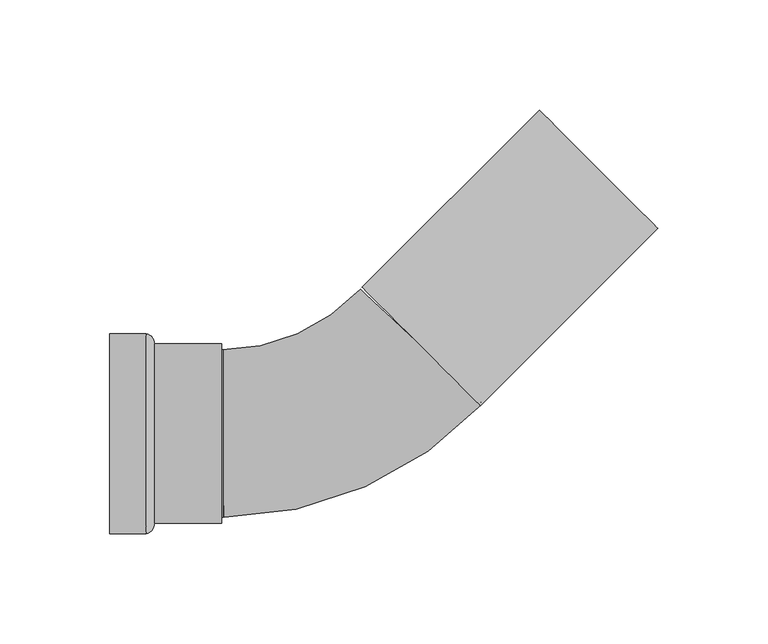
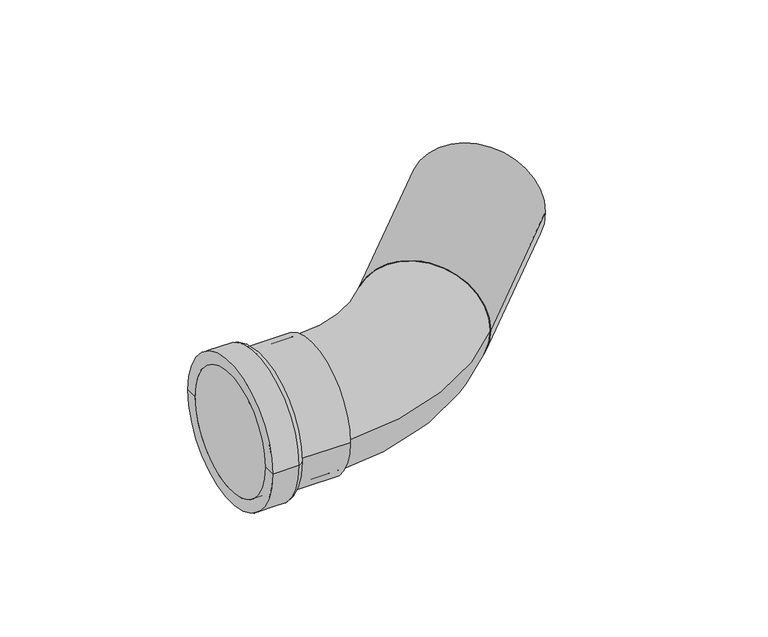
"""IFC4 building model written with IfcOpenShell, lengths in millimetres: pipe fitting geometry, VALTEC_VTi.958.I_Угольник 45° (раструб–труба) нержавеющая сталь. : VTi.958.I."""

from ifc_helpers import new_model, si_unit, point, frame, origin, origin_2d, place, context, project, spatial, polyline, circle_curve, ellipse_curve, trimmed, segment, composite_curve, outline, extrude, source, transform, mapped, element, save
from ifc_brep_helpers import plane_surface, cylinder_surface, revolved_surface, advanced_brep


def pipe_fitting_2f5093e1(model_context):
    return source(origin(), model_context, "Body", "SolidModel", [
        advanced_brep(
        [(-102.0, -38.05, 0.0), (-102.0, 38.05, 0.0), (-102.0, 45.5, 0.0), (-102.0, -45.5, 0.0), (-51.19, -38.05, 0.0), (-51.19, 38.05, 0.0), (-51.19, -40.75, 0.0), (-51.19, 40.75, 0.0), (-81.75, -40.75, 0.0), (-81.75, 40.75, 0.0), (-85.6, -45.5, 0.0), (-85.6, 45.5, 0.0)],
        [
            (0, 1, circle_curve(frame((-102.0, 0.0, 0.0), z_axis=(1.0, 0.0, 0.0), x_axis=(0.0, 1.0, 0.0)), 38.05)),
            (1, 2),
            (2, 3, circle_curve(frame((-102.0, 0.0, 0.0), z_axis=(-1.0, 0.0, 0.0), x_axis=(0.0, 1.0, 0.0)), 45.5)),
            (3, 0),
            (1, 0, circle_curve(frame((-102.0, 0.0, 0.0), z_axis=(1.0, 0.0, 0.0), x_axis=(0.0, 1.0, 0.0)), 38.05)),
            (3, 2, circle_curve(frame((-102.0, 0.0, 0.0), z_axis=(-1.0, 0.0, 0.0), x_axis=(0.0, 1.0, 0.0)), 45.5)),
            (4, 5, circle_curve(frame((-51.19, 0.0, 0.0), z_axis=(1.0, 0.0, 0.0), x_axis=(0.0, 1.0, 0.0)), 38.05)),
            (5, 1),
            (0, 4),
            (5, 4, circle_curve(frame((-51.19, 0.0, 0.0), z_axis=(1.0, 0.0, 0.0), x_axis=(0.0, 1.0, 0.0)), 38.05)),
            (6, 7, circle_curve(frame((-51.19, 0.0, 0.0), z_axis=(1.0, 0.0, 0.0), x_axis=(0.0, 1.0, 0.0)), 40.75)),
            (7, 5),
            (4, 6),
            (7, 6, circle_curve(frame((-51.19, 0.0, 0.0), z_axis=(1.0, 0.0, 0.0), x_axis=(0.0, 1.0, 0.0)), 40.75)),
            (8, 9, circle_curve(frame((-81.75, 0.0, 0.0), z_axis=(1.0, 0.0, 0.0), x_axis=(0.0, 1.0, 0.0)), 40.75)),
            (9, 7),
            (6, 8),
            (9, 8, circle_curve(frame((-81.75, 0.0, 0.0), z_axis=(1.0, 0.0, 0.0), x_axis=(0.0, 1.0, 0.0)), 40.75)),
            (10, 11, circle_curve(frame((-85.6, 0.0, 0.0), z_axis=(1.0, 0.0, 0.0), x_axis=(0.0, 1.0, 0.0)), 45.5)),
            (11, 9, circle_curve(frame((-86.4665873, 40.862345, 0.0), z_axis=(0.0, 0.0, -1.0), x_axis=(1.0, 0.0, 0.0)), 4.7179251)),
            (8, 10, circle_curve(frame((-86.4665873, -40.862345, 0.0), z_axis=(0.0, 0.0, -1.0), x_axis=(1.0, 0.0, 0.0)), 4.7179251)),
            (11, 10, circle_curve(frame((-85.6, 0.0, 0.0), z_axis=(1.0, 0.0, 0.0), x_axis=(0.0, 1.0, 0.0)), 45.5)),
            (2, 11),
            (10, 3),
        ],
        [
            plane_surface(frame((-102.0, 0.0, 0.0), z_axis=(-1.0, 0.0, 0.0), x_axis=(0.0, 1.0, 0.0))),
            revolved_surface(polyline([(-102.0, 38.05, 0.0), (-51.19, 38.05, 0.0)]), (-72.1506392, 0.0, 0.0), (-1.0, 0.0, 0.0)),
            plane_surface(frame((-51.19, 0.0, 0.0), z_axis=(1.0, 0.0, 0.0), x_axis=(0.0, 1.0, 0.0))),
            cylinder_surface(frame((-72.1506392, 0.0, 0.0), z_axis=(-1.0, 0.0, 0.0), x_axis=(0.0, 1.0, 0.0)), 40.75),
            revolved_surface(trimmed(ellipse_curve(frame((-86.4665873, 40.862345, 0.0), z_axis=(0.0, 0.0, 1.0), x_axis=(1.0, 0.0, 0.0)), 4.7179251, 4.7179251), [point((-81.75, 40.75, 0.0))], [point((-85.6, 45.5, 0.0))], True, "CARTESIAN"), (-72.1506392, 0.0, 0.0), (-1.0, 0.0, 0.0)),
            cylinder_surface(frame((-72.1506392, 0.0, 0.0), z_axis=(-1.0, 0.0, 0.0), x_axis=(0.0, 1.0, 0.0)), 45.5),
        ],
        [
            (0, [[1, 2, 3, 4]]),
            (0, [[5, -4, 6, -2]]),
            (1, [[7, 8, -1, 9]]),
            (1, [[10, -9, -5, -8]]),
            (2, [[11, 12, -7, 13]]),
            (2, [[14, -13, -10, -12]]),
            (3, [[15, 16, -11, 17]]),
            (3, [[18, -17, -14, -16]]),
            (4, [[19, 20, -15, 21]]),
            (4, [[22, -21, -18, -20]]),
            (5, [[-3, 23, -19, 24]]),
            (5, [[-6, -24, -22, -23]]),
        ],
    ),
        extrude(outline(composite_curve([segment(trimmed(circle_curve(origin_2d(), 38.05), [point((-38.05, 0.0))], [point((38.05, 0.0))], False, "CARTESIAN"), True, "CONTINUOUS"), segment(trimmed(circle_curve(origin_2d(), 38.05), [point((38.05, 0.0))], [point((-38.05, 0.0))], False, "CARTESIAN"), True, "CONTINUOUS")], self_intersect=False)), frame((-102.0, 0.0, 0.0), z_axis=(1.0, 0.0, 0.0), x_axis=(0.0, 1.0, 0.0)), (0.0, 0.0, 1.0), 51.51),
        extrude(outline(composite_curve([segment(trimmed(circle_curve(origin_2d(), 38.05), [point((0.0, -38.05))], [point((0.0, 38.05))], False, "CARTESIAN"), True, "CONTINUOUS"), segment(trimmed(circle_curve(origin_2d(), 38.05), [point((0.0, 38.05))], [point((0.0, -38.05))], False, "CARTESIAN"), True, "CONTINUOUS")], self_intersect=False)), frame((39.6686904, 39.6686904, 0.0), z_axis=(0.7071067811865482, 0.707106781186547, 0.0), x_axis=(0.0, 0.0, 1.0)), (0.0, 0.0, 1.0), 113.9),
        advanced_brep(
        [(-50.1082545, -38.048085, 0.0), (-50.8717455, 38.048085, 0.0), (67.4617717, 13.6812486, 0.0), (11.8756091, 65.6561323, 0.0)],
        [
            (0, 1, circle_curve(frame((-50.49, 0.0, 0.0), z_axis=(-0.9999496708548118, -0.010032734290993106, 0.0), x_axis=(-0.010032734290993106, 0.9999496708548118, 0.0)), 38.05)),
            (1, 0, circle_curve(frame((-50.49, 0.0, 0.0), z_axis=(-0.9999496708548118, -0.010032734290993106, 0.0), x_axis=(-0.010032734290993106, 0.9999496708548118, 0.0)), 38.05)),
            (2, 3, circle_curve(frame((39.6686904, 39.6686904, 0.0), z_axis=(0.6829813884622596, 0.7304357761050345, 0.0), x_axis=(-0.7304357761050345, 0.6829813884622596, 0.0)), 38.05)),
            (3, 2, circle_curve(frame((39.6686904, 39.6686904, 0.0), z_axis=(0.6829813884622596, 0.7304357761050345, 0.0), x_axis=(-0.7304357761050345, 0.6829813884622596, 0.0)), 38.05)),
            (3, 1, circle_curve(frame((-51.7456002, 125.144048, 0.0), z_axis=(0.0, 0.0, -1.0), x_axis=(0.010032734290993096, -0.9999496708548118, 0.0)), 87.1003467)),
            (0, 2, circle_curve(frame((-51.7456002, 125.144048, 0.0), z_axis=(0.0, 0.0, 1.0), x_axis=(0.010032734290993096, -0.9999496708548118, 0.0)), 163.2003467)),
        ],
        [
            plane_surface(frame((-50.49, 0.0, 0.0), z_axis=(-0.9999496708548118, -0.010032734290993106, 0.0), x_axis=(0.0, 0.0, 1.0))),
            plane_surface(frame((39.6686904, 39.6686904, 0.0), z_axis=(0.6829813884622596, 0.7304357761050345, 0.0), x_axis=(0.0, 0.0, 1.0))),
            revolved_surface(trimmed(ellipse_curve(frame((-50.49, 0.0, 0.0), z_axis=(-0.9999496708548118, -0.010032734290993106, 0.0), x_axis=(-0.010032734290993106, 0.9999496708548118, 0.0)), 38.05, 38.05), [point((-50.1082545, -38.048085, 0.0))], [point((-50.8717455, 38.048085, 0.0))], True, "CARTESIAN"), (-51.7456002, 125.144048, 0.0), (0.0, 0.0, 1.0)),
            revolved_surface(trimmed(ellipse_curve(frame((-50.49, 0.0, 0.0), z_axis=(-0.9999496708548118, -0.010032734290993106, 0.0), x_axis=(-0.010032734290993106, 0.9999496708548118, 0.0)), 38.05, 38.05), [point((-50.8717455, 38.048085, 0.0))], [point((-50.1082545, -38.048085, 0.0))], True, "CARTESIAN"), (-51.7456002, 125.144048, 0.0), (0.0, 0.0, 1.0)),
        ],
        [
            (0, [[1, 2]]),
            (1, [[3, 4]]),
            (2, [[5, -1, 6, -4]]),
            (3, [[-6, -2, -5, -3]]),
        ],
    ),
        extrude(outline(composite_curve([segment(trimmed(circle_curve(origin_2d(), 38.05), [point((-38.05, 0.0))], [point((38.05, 0.0))], False, "CARTESIAN"), True, "CONTINUOUS"), segment(trimmed(circle_curve(origin_2d(), 38.05), [point((38.05, 0.0))], [point((-38.05, 0.0))], False, "CARTESIAN"), True, "CONTINUOUS")], self_intersect=False)), frame((-102.0, 0.0, 0.0), z_axis=(1.0, 0.0, 0.0), x_axis=(0.0, 1.0, 0.0)), (0.0, 0.0, 1.0), 45.9),
    ])


if __name__ == "__main__":
    model = new_model("IFC4")
    model_context = context("Model", 3, world=origin())
    ifc_project = project(units=[si_unit("LENGTHUNIT", "METRE", prefix="MILLI")], contexts=[model_context])
    site = spatial("IfcSite", under=ifc_project)
    building = spatial("IfcBuilding", under=site)
    placement = place(None, origin())
    pipe_fitting_shape = pipe_fitting_2f5093e1(model_context)
    element("IfcPipeFitting", 1, ObjectType="VALTEC_VTi.958.I_Угольник 45° (раструб–труба) нержавеющая сталь. : VTi.958.I", at=placement, inside=building, context=model_context, shape_type="MappedRepresentation", body=[
        mapped(pipe_fitting_shape, transform((0.0, 0.0, 0.0), x_axis=(1.0, 0.0, 0.0), y_axis=(0.0, 1.0, 0.0), z_axis=(0.0, 0.0, 1.0))),
    ])
    save(model, "model.ifc")
